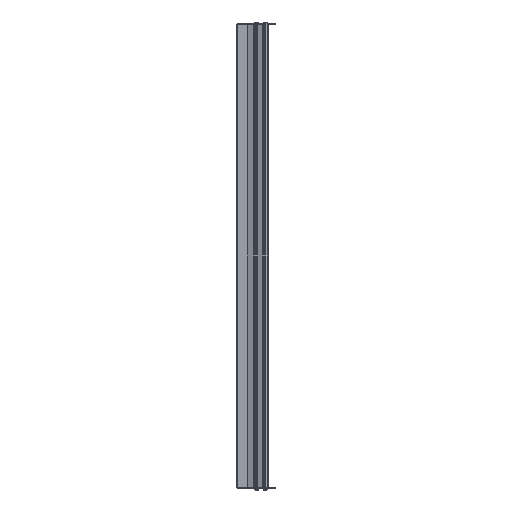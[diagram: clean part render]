
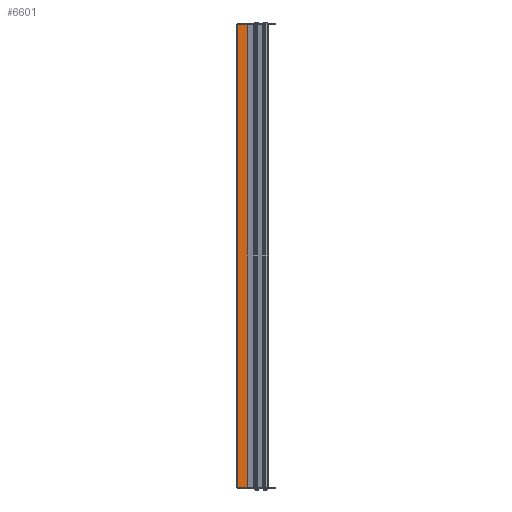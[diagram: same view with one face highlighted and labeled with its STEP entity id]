
A CAD part, left-side view. The second image highlights one B-rep face of the part: STEP entity #6601.
In plain terms, the highlighted planar face has unit normal (-1, 0, 0) as drawn and (1, 0, 0) by its records, which use the part's own axes.
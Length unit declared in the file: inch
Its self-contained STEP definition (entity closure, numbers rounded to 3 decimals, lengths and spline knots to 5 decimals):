
#5464=DIRECTION('',(0.,0.,1.));
#5465=VECTOR('',#5464,44.236);
#5466=CARTESIAN_POINT('',(0.048,0.01693,-22.118));
#5467=LINE('',#5466,#5465);
#5494=DIRECTION('',(0.,-1.,0.));
#5495=VECTOR('',#5494,0.88707);
#5496=CARTESIAN_POINT('',(0.048,0.904,-22.118));
#5497=LINE('',#5496,#5495);
#5498=DIRECTION('',(0.,-1.,0.));
#5499=VECTOR('',#5498,0.88707);
#5500=CARTESIAN_POINT('',(0.048,0.904,22.118));
#5501=LINE('',#5500,#5499);
#5502=DIRECTION('',(0.,0.,-1.));
#5503=VECTOR('',#5502,44.236);
#5504=CARTESIAN_POINT('',(0.048,0.904,22.118));
#5505=LINE('',#5504,#5503);
#5995=CARTESIAN_POINT('',(0.048,0.904,22.118));
#5997=VERTEX_POINT('',#5995);
#6038=CARTESIAN_POINT('',(0.048,0.01693,-22.118));
#6040=VERTEX_POINT('',#6038);
#6066=CARTESIAN_POINT('',(0.048,0.904,-22.118));
#6068=VERTEX_POINT('',#6066);
#6162=CARTESIAN_POINT('',(0.048,0.01693,22.118));
#6163=VERTEX_POINT('',#6162);
#6589=CARTESIAN_POINT('',(0.048,0.,22.118));
#6590=DIRECTION('',(-1.,0.,0.));
#6591=DIRECTION('',(0.,0.,1.));
#6592=AXIS2_PLACEMENT_3D('',#6589,#6590,#6591);
#6593=PLANE('',#6592);
#6594=ORIENTED_EDGE('',*,*,#6582,.T.);
#6595=ORIENTED_EDGE('',*,*,#6525,.T.);
#6596=ORIENTED_EDGE('',*,*,#6554,.F.);
#6598=ORIENTED_EDGE('',*,*,#6597,.T.);
#6599=EDGE_LOOP('',(#6594,#6595,#6596,#6598));
#6600=FACE_OUTER_BOUND('',#6599,.F.);
#6525=EDGE_CURVE('',#6040,#6163,#5467,.T.);
#6554=EDGE_CURVE('',#5997,#6163,#5501,.T.);
#6582=EDGE_CURVE('',#6068,#6040,#5497,.T.);
#6597=EDGE_CURVE('',#5997,#6068,#5505,.T.);
#6601=ADVANCED_FACE('',(#6600),#6593,.F.);
